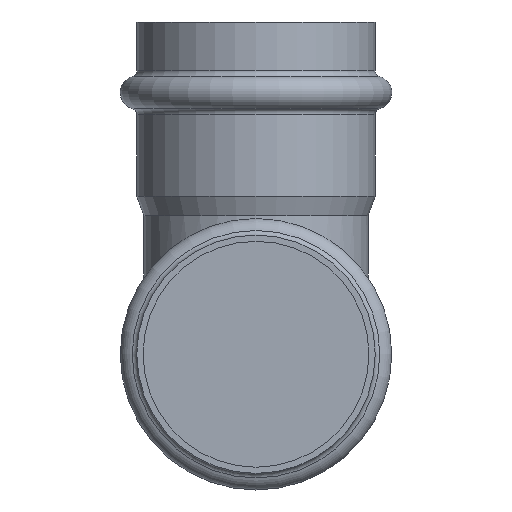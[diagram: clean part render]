
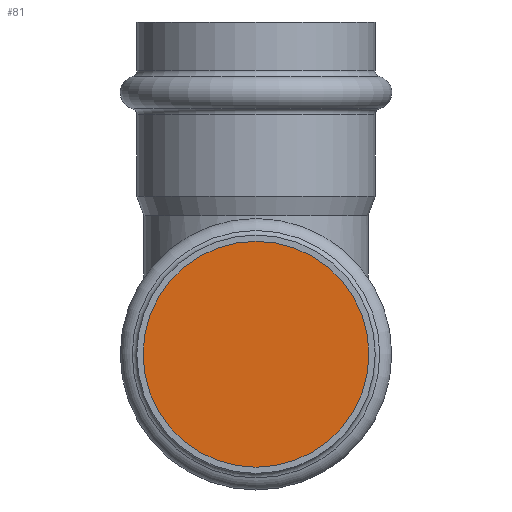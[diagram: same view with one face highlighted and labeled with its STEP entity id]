
A CAD part, front view. The second image highlights one B-rep face of the part: STEP entity #81.
In plain terms, the highlighted planar face has unit normal (0, -1, 0).
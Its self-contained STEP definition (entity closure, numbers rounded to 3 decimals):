
#81=ADVANCED_FACE('',(#332),#334,.T.);
#332=FACE_BOUND('',#333,.T.);
#333=EDGE_LOOP('',(#400));
#334=PLANE('',#335);
#335=AXIS2_PLACEMENT_3D('',#336,#337,#338);
#336=CARTESIAN_POINT('',(0.,-67.792,0.));
#337=DIRECTION('',(0.,-1.,0.));
#338=DIRECTION('',(0.,0.,-1.));
#400=ORIENTED_EDGE('',*,*,#431,.T.);
#431=EDGE_CURVE('',#492,#492,#493,.F.);
#492=VERTEX_POINT('',#644);
#493=CIRCLE('',#645,27.2);
#644=CARTESIAN_POINT('',(0.,-67.792,27.2));
#645=AXIS2_PLACEMENT_3D('',#646,#647,#648);
#646=CARTESIAN_POINT('',(0.,-67.792,0.));
#647=DIRECTION('',(0.,1.,0.));
#648=DIRECTION('',(0.,0.,1.));
